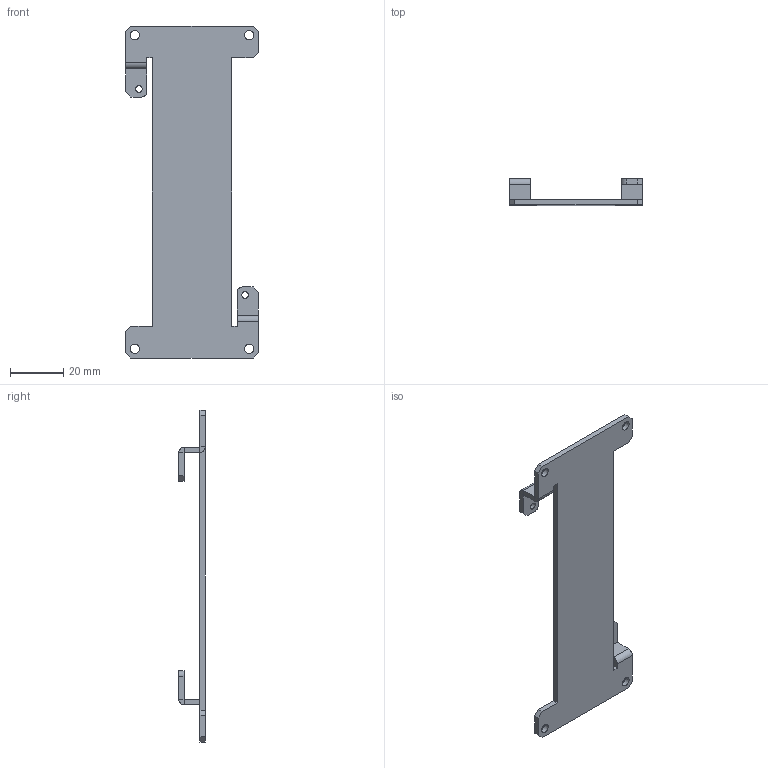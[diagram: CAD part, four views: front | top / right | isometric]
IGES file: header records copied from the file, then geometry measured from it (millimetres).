
Start section: SolidWorks IGES file using analytic representation for surfaces
Global section: file name: C:\3D\d-22_outline.IGS; native system: SolidWorks 2020; preprocessor: SolidWorks 2020; author: a000000; date: 231107.110652; units: millimetre
Bounding box: 50 x 10 x 125 mm (x, y, z)
Volume: 9025.6 mm3; surface area: 10078.3 mm2
Topology: 1 solids, 1 shells, 185 faces, 502 edges, 324 vertices
Faces by surface type: plane 130, bspline 33, revolution 22
